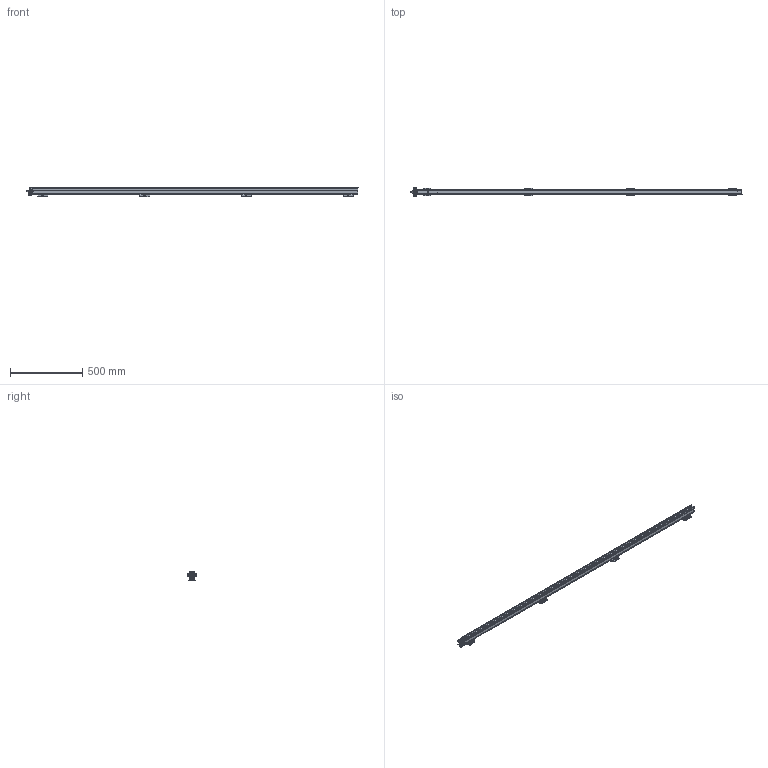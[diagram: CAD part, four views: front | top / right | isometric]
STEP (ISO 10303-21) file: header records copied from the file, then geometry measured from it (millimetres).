
FILE_DESCRIPTION(/* description */ (''),/* implementation_level */ '2;1');
FILE_NAME(/* name */ 'PERFORMAXEASYEX_2070_3D_GB',/* time_stamp */ '2017-05-31T09:52:31+02:00',/* author */ (''),/* organization */ (''),/* preprocessor_version */ 'ST-DEVELOPER v15.7',/* originating_system */ 'HiCAD 2015 2002.1 Build 408',/* authorisation */ '');
FILE_SCHEMA (('AUTOMOTIVE_DESIGN { 1 0 10303 214 1 1 1 1 }'));
Length unit declared in the file: millimetre
Products named in the file (75): Root; -_Performax (IQ) Easy Ex 2070 eff (Hybrid + Speed); -_LED; -_PROFILE; -_POTTING; -_CAP DE; -_CAP CE; -_CABLE; -_PIN; -_COVER; 4532000100_Mounting bracket bars; -_Side piece; -_Slide piece; -_Bracket small; DIN 13-M3; DIN 76-M3; 2047507823_PE connection; DIN 916-M4x20-45H_Set screws; GEWINDE; ISO 8738-4-160 HV_Washers for studs; ISO 4032-M4-10_Hexagon nuts; DIN 127-A 4-FSt_Washers; 2047493713_Cable exits; -_Exit K; -_Clip; -_Gland body; -_Exit S; -_Exit Q; -_Washer ø20mm, 5mm thick for corr. conduit (exit
 Q); -_Exit I; -_Exit U; -_Exit A; Thread_2
Assembly tree (74 placements, depth 5):
  Root
    -_Performax (IQ) Easy Ex 2070 eff (Hybrid + Speed)
      -_LED
      -_PROFILE
      -_POTTING
      -_CAP DE
      -_CAP CE
      -_CABLE
      -_PIN
      -_PIN
      -_COVER
      4532000100_Mounting bracket bars
        -_Side piece
        -_Side piece
        -_Slide piece
        -_Bracket small
          DIN 13-M3
          DIN 13-M3
          DIN 76-M3
          DIN 76-M3
      4532000100_Mounting bracket bars
        -_Side piece
        -_Side piece
        -_Slide piece
        -_Bracket small
          DIN 13-M3
          DIN 13-M3
          DIN 76-M3
          DIN 76-M3
      4532000100_Mounting bracket bars
        -_Side piece
        -_Side piece
        -_Slide piece
        -_Bracket small
          DIN 13-M3
          DIN 13-M3
          DIN 76-M3
          DIN 76-M3
      4532000100_Mounting bracket bars
        -_Side piece
        -_Side piece
        -_Slide piece
        -_Bracket small
          DIN 13-M3
          DIN 13-M3
          DIN 76-M3
          DIN 76-M3
      2047507823_PE connection
        DIN 916-M4x20-45H_Set screws
          GEWINDE
        ISO 8738-4-160 HV_Washers for studs
        ISO 4032-M4-10_Hexagon nuts
          GEWINDE
        DIN 127-A 4-FSt_Washers
        ISO 4032-M4-10_Hexagon nuts
          GEWINDE
      2047493713_Cable exits
        -_Exit K
          -_Clip
          -_Gland body
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Bounding box: 2292.4 x 58.79 x 68.9 mm (x, y, z)
Volume: 2782018.7 mm3; surface area: 795706.1 mm2
Topology: 63 solids, 75 shells, 3239 faces, 8266 edges, 4990 vertices
Faces by surface type: plane 1391, cylinder 1323, torus 177, sphere 165, bspline 128, cone 55
Full cylindrical faces by diameter (mm): 2.387 x16, 3 x32, 3.141 x4, 4 x5, 4.3 x1, 5.4 x2, 5.5 x20, 8 x2, 11.3 x4, 12.5 x4, 13 x1, 14.6 x5, 15.1 x5, 18.4 x4, 20 x7, 20.2 x4
Entity records: 176187 total; most frequent: CARTESIAN_POINT 35942, DIRECTION 16546, PRESENTATION_STYLE_ASSIGNMENT 15725, OVER_RIDING_STYLED_ITEM 15663, DRAUGHTING_PRE_DEFINED_CURVE_FONT 15640, CURVE_STYLE 15640, ORIENTED_EDGE 15640, EDGE_CURVE 7820
